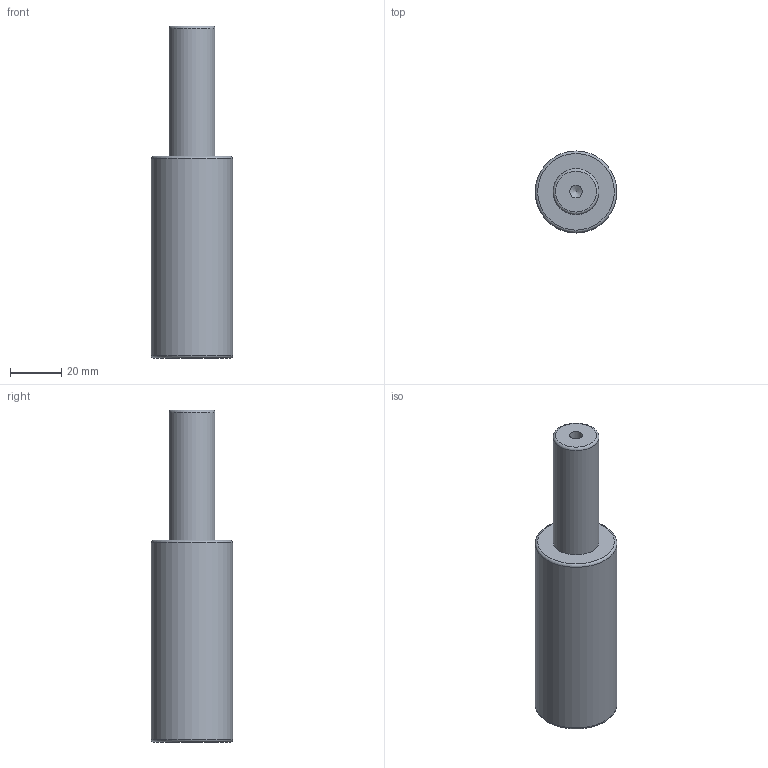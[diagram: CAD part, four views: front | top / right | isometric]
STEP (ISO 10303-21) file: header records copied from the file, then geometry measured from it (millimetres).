
FILE_DESCRIPTION(/* description */ (''),/* implementation_level */ '2;1');
FILE_NAME(/* name */ 'NV5-SMLX.32x50.stp',/* time_stamp */ '2018-08-31T16:08:36+02:00',/* author */ (''),/* organization */ (''),/* preprocessor_version */ 'ST-DEVELOPER v16',/* originating_system */ 'SIEMENS PLM Software NX 10.0',/* authorisation */ '');
FILE_SCHEMA (('AUTOMOTIVE_DESIGN { 1 0 10303 214 3 1 1 1 }'));
Length unit declared in the file: millimetre
Products named in the file (1): NV5-SMLX.32x50
Bounding box: 32 x 32 x 130 mm (x, y, z)
Volume: 76007.5 mm3; surface area: 12674.6 mm2
Topology: 1 solids, 1 shells, 12 faces, 24 edges, 15 vertices
Faces by surface type: cylinder 4, torus 3, plane 3, cone 2
Full cylindrical faces by diameter (mm): 5 x2, 18 x1, 32 x1
Entity records: 266 total; most frequent: DIRECTION 48, CARTESIAN_POINT 37, FACE_BOUND 24, AXIS2_PLACEMENT_3D 24, EDGE_LOOP 22, ORIENTED_EDGE 22, VERTEX_POINT 13, ADVANCED_FACE 12
